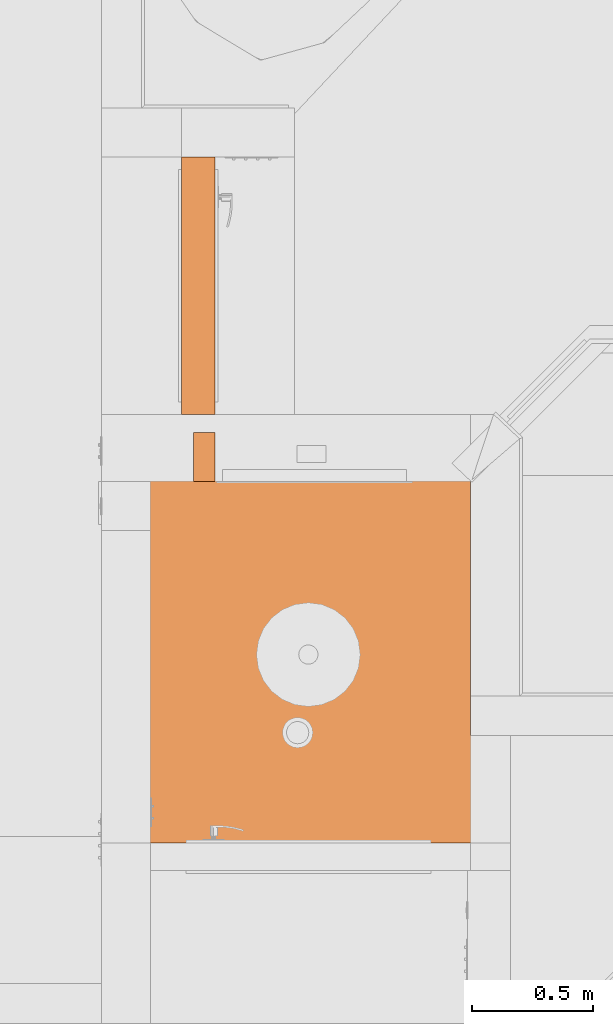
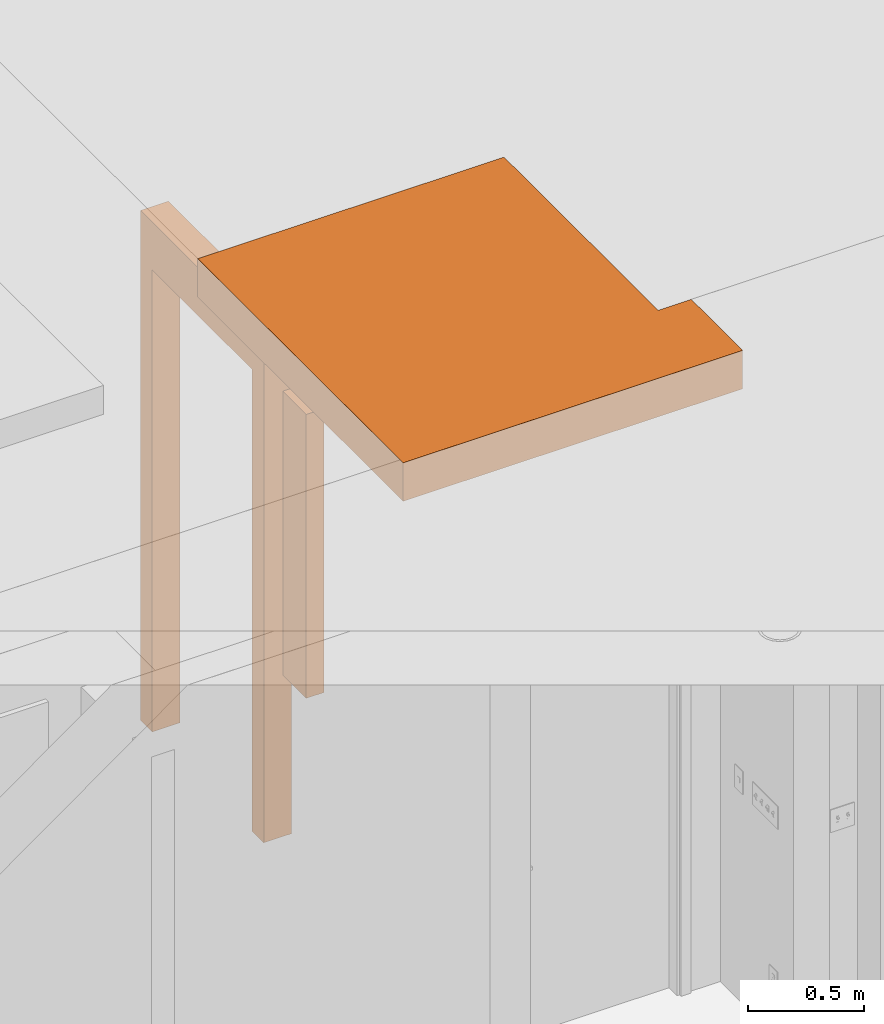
# One storey, part 87 of 103: 2 proxies.
"""IFC2X3 building model written with IfcOpenShell, lengths in inches."""

import ifcopenshell
import ifcopenshell.guid

model = None  # the IFC model being written
_history = None  # IfcOwnerHistory: only IFC2X3 demands one
_inside = {}  # id of a spatial element -> (the spatial element, [elements in it])
_under = {}  # id of a project, library or spatial element -> (it, [spatial elements below it])
_declared = {}  # id of a project -> (the project, [libraries it declares])
_typed = {}  # id of a type object -> (the type object, [elements of that type])
_made_of = {}  # id of a material, layer set ... -> (it, [elements and type objects made of it])


def new_model(schema):
    """Start an empty IFC model of exactly this schema.

    Asked for "IFC4X3", IfcOpenShell would pick the latest addendum, in which some entities
    have other attributes; the version numbers below select the first issue.
    IFC2X3 requires an IfcOwnerHistory on every rooted entity: one is made here for all.
    """
    global model, _history
    if schema == "IFC4X3":
        model = ifcopenshell.file(schema_version=(4, 3, 0, 0))
    else:
        model = ifcopenshell.file(schema=schema)
    _inside.clear()
    _under.clear()
    _declared.clear()
    _typed.clear()
    _made_of.clear()
    _history = None
    if model.schema == "IFC2X3":
        org = make("IfcOrganization", Name="unknown")
        user = make(
            "IfcPersonAndOrganization",
            ThePerson=make("IfcPerson", FamilyName="unknown"),
            TheOrganization=org,
        )
        app = make(
            "IfcApplication",
            ApplicationDeveloper=org,
            Version="unknown",
            ApplicationFullName="unknown",
            ApplicationIdentifier="unknown",
        )
        _history = make(
            "IfcOwnerHistory",
            OwningUser=user,
            OwningApplication=app,
            ChangeAction="ADDED",
            CreationDate=0,
        )
    return model


def make(cls, **values):
    """One entity of the class cls with the attributes given. An attribute that is None is left unset."""
    return model.create_entity(
        cls, **{name: value for name, value in values.items() if value is not None}
    )


def entity(cls, *values):
    """Any entity or typed value of the class cls, its attributes in the order of the schema. None: left unset."""
    e = model.create_entity(cls)
    for i, value in enumerate(values):
        if value is not None:
            e[i] = value
    return e


def rooted(cls, **values):
    """An entity with a GlobalId (a new one), such as an element, a storey or a relation."""
    return make(cls, GlobalId=ifcopenshell.guid.new(), OwnerHistory=_history, **values)


def si_unit(unit_type, name, prefix=None):
    """IfcSIUnit, for example si_unit("LENGTHUNIT", "METRE", prefix="MILLI")."""
    return make("IfcSIUnit", UnitType=unit_type, Prefix=prefix, Name=name)


def converted_unit(unit_type, name, factor, base, dimensions=None, offset=None):
    """IfcConversionBasedUnit, such as the inch: factor (a typed value) times the base unit."""
    return make(
        "IfcConversionBasedUnit"
        if offset is None
        else "IfcConversionBasedUnitWithOffset",
        ConversionOffset=offset,
        Dimensions=None
        if dimensions is None
        else entity("IfcDimensionalExponents", *dimensions),
        UnitType=unit_type,
        Name=name,
        ConversionFactor=make(
            "IfcMeasureWithUnit", ValueComponent=factor, UnitComponent=base
        ),
    )


def derived_unit(unit_type, elements):
    """IfcDerivedUnit: a product of units, each with its exponent."""
    return make(
        "IfcDerivedUnit",
        Elements=[
            make("IfcDerivedUnitElement", Unit=unit, Exponent=power)
            for unit, power in elements
        ],
        UnitType=unit_type,
    )


def money_unit(currency):
    """IfcMonetaryUnit."""
    return make("IfcMonetaryUnit", Currency=currency)


def assignment(units):
    """IfcUnitAssignment: the units of a project."""
    return None if units is None else make("IfcUnitAssignment", Units=units)


def point(xyz):
    """IfcCartesianPoint."""
    return None if xyz is None else make("IfcCartesianPoint", Coordinates=xyz)


def direction(xyz):
    """IfcDirection."""
    return None if xyz is None else make("IfcDirection", DirectionRatios=xyz)


def frame(location, z_axis=None, x_axis=None):
    """IfcAxis2Placement3D, a coordinate frame: its origin and axes. An axis left out is left unset."""
    return make(
        "IfcAxis2Placement3D",
        Location=point(location),
        Axis=direction(z_axis),
        RefDirection=direction(x_axis),
    )


def origin_with_axes():
    """The frame at (0, 0, 0) with the z axis (0, 0, 1) and the x axis (1, 0, 0) written out."""
    return frame((0.0, 0.0, 0.0), z_axis=(0.0, 0.0, 1.0), x_axis=(1.0, 0.0, 0.0))


def place(relative_to, where):
    """IfcLocalPlacement: puts the frame where relative to a parent placement (None: the world)."""
    return make(
        "IfcLocalPlacement", PlacementRelTo=relative_to, RelativePlacement=where
    )


def context(
    kind, dimensions, precision=None, world=None, true_north=None, identifier=None
):
    """IfcGeometricRepresentationContext, for example the 3D "Model" context."""
    return make(
        "IfcGeometricRepresentationContext",
        ContextIdentifier=identifier,
        ContextType=kind,
        CoordinateSpaceDimension=dimensions,
        Precision=precision,
        WorldCoordinateSystem=world,
        TrueNorth=true_north,
    )


def subcontext(parent, identifier, kind, view, scale=None):
    """IfcGeometricRepresentationSubContext, for example "Body" below "Model"."""
    return make(
        "IfcGeometricRepresentationSubContext",
        ContextIdentifier=identifier,
        ContextType=kind,
        ParentContext=parent,
        TargetScale=scale,
        TargetView=view,
    )


def project(units=None, contexts=None):
    """IfcProject with its units and contexts."""
    return rooted(
        "IfcProject",
        Name="project",
        RepresentationContexts=contexts,
        UnitsInContext=assignment(units),
    )


def spatial(cls, under=None, at=None, **own):
    """A site, building, storey or space (cls), placed at a placement, below another one or the project."""
    s = rooted(cls, ObjectPlacement=at, **own)
    if under is not None:
        _under.setdefault(under.id(), (under, []))[1].append(s)
    return s


def faces_of(points, faces, orient=None, outer=None):
    """IfcFace entities. A face is a list of loops; a loop is a list of indices into points, from 0.

    orient and outer hold one flag for each loop. By default every Orientation is true, the
    first loop of a face is its IfcFaceOuterBound and the others are IfcFaceBound.
    """
    made = []
    for i, loops in enumerate(faces):
        bounds = []
        for j, loop in enumerate(loops):
            is_outer = j == 0 if outer is None else outer[i][j]
            bounds.append(
                make(
                    "IfcFaceOuterBound" if is_outer else "IfcFaceBound",
                    Bound=make("IfcPolyLoop", Polygon=[points[k] for k in loop]),
                    Orientation=True if orient is None else orient[i][j],
                )
            )
        made.append(make("IfcFace", Bounds=bounds))
    return made


def faceted_brep(points, faces, orient=None, outer=None, voids=None):
    """IfcFacetedBrep: a solid bounded by flat faces; with voids (closed shells), ...WithVoids."""
    shared = [point(p) for p in points]
    hull = make("IfcClosedShell", CfsFaces=faces_of(shared, faces, orient, outer))
    if voids is None:
        return make("IfcFacetedBrep", Outer=hull)
    return make(
        "IfcFacetedBrepWithVoids",
        Outer=hull,
        Voids=[
            make(cls, CfsFaces=faces_of(shared, fs, o, b)) for cls, fs, o, b in voids
        ],
    )


def shape(context_of_items, identifier, shape_type, items):
    """IfcShapeRepresentation: the items that make up one representation, for example the "Body"."""
    return make(
        "IfcShapeRepresentation",
        ContextOfItems=context_of_items,
        RepresentationIdentifier=identifier,
        RepresentationType=shape_type,
        Items=items,
    )


def material(Name=None, Category=None):
    """IfcMaterial."""
    return make("IfcMaterial", Name=Name, Category=Category)


def made_of(thing, what):
    """Note that an element or type object is made of a material, layer set ...; save() writes the relation."""
    if what is not None:
        _made_of.setdefault(what.id(), (what, []))[1].append(thing)
    return thing


def type_object(cls, material=None, **own):
    """A type object (cls), such as IfcWallType, which elements share."""
    return made_of(rooted(cls, **own), material)


def element(
    cls,
    number,
    at=None,
    inside=None,
    cuts=None,
    type_object=None,
    material=None,
    context=None,
    identifier="Body",
    shape_type=None,
    held_by="IfcProductDefinitionShape",
    body=None,
    shapes=None,
    **own,
):
    """One element of the class cls, such as IfcWall. Its Tag is "e" and its number.

    at: its placement. inside: the storey or other place that contains it. cuts: it is an
    opening in that element (IfcRelVoidsElement). A single representation is given by context,
    identifier, shape_type and body (its items); several are given by shapes. held_by: the class
    of the entity that holds the representations. save() writes the other relations.
    """
    e = rooted(cls, Tag="e%d" % number, ObjectPlacement=at, **own)
    if body is not None:
        shapes = [shape(context, identifier, shape_type, body)]
    if shapes is not None:
        e.Representation = make(held_by, Representations=shapes)
    if inside is not None:
        _inside.setdefault(inside.id(), (inside, []))[1].append(e)
    if cuts is not None:
        rooted(
            "IfcRelVoidsElement", RelatingBuildingElement=cuts, RelatedOpeningElement=e
        )
    if type_object is not None:
        _typed.setdefault(type_object.id(), (type_object, []))[1].append(e)
    return made_of(e, material)


def aggregate(whole, parts):
    """IfcRelAggregates: a whole, such as a stair, and the parts it consists of."""
    return rooted("IfcRelAggregates", RelatingObject=whole, RelatedObjects=parts)


def save(model, path):
    """Write the relations noted so far, then the file.

    IfcRelAggregates (storeys below a building ...), IfcRelContainedInSpatialStructure (elements
    in a storey), IfcRelDefinesByType, IfcRelAssociatesMaterial and IfcRelDeclares: one each for
    every whole, place, type object, material and project.
    """
    for whole, parts in _under.values():
        aggregate(whole, parts)
    for where, things in _inside.values():
        rooted(
            "IfcRelContainedInSpatialStructure",
            RelatedElements=things,
            RelatingStructure=where,
        )
    for kind, things in _typed.values():
        rooted("IfcRelDefinesByType", RelatedObjects=things, RelatingType=kind)
    for what, things in _made_of.values():
        rooted("IfcRelAssociatesMaterial", RelatedObjects=things, RelatingMaterial=what)
    for by, libraries in _declared.values():
        rooted("IfcRelDeclares", RelatingContext=by, RelatedDefinitions=libraries)
    model.write(path)


model = new_model("IFC2X3")

# Units and contexts
model_context = context("Model", 3, precision=0.00039370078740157, world=origin_with_axes(), true_north=direction((0.0, 1.0)))
plan_context = context("Plan", 3, precision=0.00039370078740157, world=origin_with_axes(), true_north=direction((0.0, 1.0)))
body_context = subcontext(model_context, "Body", "Model", "MODEL_VIEW")
ifc_project = project(units=[converted_unit("LENGTHUNIT", "INCH", entity("IfcPositiveLengthMeasure", 0.0254), si_unit("LENGTHUNIT", "METRE"), dimensions=[1, 0, 0, 0, 0, 0, 0]), converted_unit("AREAUNIT", "SQUARE_FOOT", entity("IfcPositiveLengthMeasure", 0.09290304), si_unit("AREAUNIT", "SQUARE_METRE"), dimensions=[2, 0, 0, 0, 0, 0, 0]), si_unit("PLANEANGLEUNIT", "RADIAN"), si_unit("SOLIDANGLEUNIT", "STERADIAN"), money_unit("USD"), converted_unit("TIMEUNIT", "Year", entity("IfcTimeMeasure", 31557600.0), si_unit("TIMEUNIT", "SECOND"), dimensions=[0, 0, 1, 0, 0, 0, 0]), si_unit("MASSUNIT", "GRAM", prefix="KILO"), si_unit("THERMODYNAMICTEMPERATUREUNIT", "DEGREE_CELSIUS"), si_unit("LUMINOUSINTENSITYUNIT", "LUMEN"), si_unit("ENERGYUNIT", "JOULE", prefix="MEGA"), derived_unit("SPECIFICHEATCAPACITYUNIT", [(si_unit("ENERGYUNIT", "JOULE"), 1), (si_unit("MASSUNIT", "GRAM", prefix="KILO"), -1), (si_unit("THERMODYNAMICTEMPERATUREUNIT", "KELVIN"), -1)])], contexts=[model_context, plan_context])

# Site, building, storey
site_placement = place(None, origin_with_axes())
site = spatial("IfcSite", under=ifc_project, at=site_placement, Name="Site", CompositionType="ELEMENT")
building_placement = place(site_placement, origin_with_axes())
building = spatial("IfcBuilding", under=site, at=building_placement, Name="Building", CompositionType="ELEMENT")
storey_placement = place(building_placement, frame((0.0, 0.0, 127.9999999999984), z_axis=(0.0, 0.0, 1.0), x_axis=(1.0, 0.0, 0.0)))
storey = spatial("IfcBuildingStorey", under=building, at=storey_placement, Name="Second Floor", CompositionType="ELEMENT", Elevation=128.0)

# Proxies
ifc_material = material(Name="Generic - Structural")
building_element_proxy_type_1 = type_object("IfcBuildingElementProxyType", Name="Generic - Structural 5 1/2\"", PredefinedType="NOTDEFINED")
proxy_1_placement = place(storey_placement, frame((-62.74999999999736, 489.9999999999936, 0.0), z_axis=(0.0, 0.0, 1.0), x_axis=(0.0, -1.0, 0.0)))
element("IfcBuildingElementProxy", 1, at=proxy_1_placement, inside=storey, type_object=building_element_proxy_type_1, material=ifc_material, Name="SW - 126", context=body_context, shape_type="Brep", body=[
    faceted_brep([(53.00000000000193, 5.499999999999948, 94.9999999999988), (53.00000000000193, 5.499999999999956, 35.99999999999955), (45.00000001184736, 5.499999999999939, 35.99999999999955), (45.00000001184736, 5.499999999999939, 94.9999999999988), (53.00000000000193, 2.000001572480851, 94.9999999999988), (53.00000000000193, 2.000001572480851, 35.99999999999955), (45.00000000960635, 2.000001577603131, 35.99999999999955), (45.00000000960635, 2.000001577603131, 94.9999999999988)], [[[0, 1, 2, 3]], [[4, 5, 1, 0]], [[6, 2, 1, 5]], [[7, 3, 2, 6]], [[4, 0, 3, 7]], [[6, 5, 4, 7]]]),
    faceted_brep([(37.99999999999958, 5.49999999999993, 0.0), (37.99999999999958, 5.499999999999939, 95.9999999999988), (4.00000000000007, 5.499999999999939, 95.9999999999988), (4.00000000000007, 5.49999999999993, 0.0), (0.0, 5.49999999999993, 0.0), (0.0, 5.499999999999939, 105.9999999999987), (42.00000000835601, 5.499999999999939, 105.9999999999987), (42.00000000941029, 5.49999999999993, 0.0), (37.99999999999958, 0.0, 0.0), (37.99999999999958, 0.0, 95.9999999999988), (4.00000000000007, 0.0, 95.9999999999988), (4.00000000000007, 0.0, 0.0), (0.0, 0.0, 0.0), (0.0, 0.0, 105.9999999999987), (42.00000000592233, 0.0, 105.9999999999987), (42.00000000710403, 0.0, 0.0)], [[[0, 1, 2, 3, 4, 5, 6, 7]], [[1, 0, 8, 9]], [[2, 1, 9, 10]], [[3, 2, 10, 11]], [[3, 11, 12, 4]], [[13, 5, 4, 12]], [[14, 6, 5, 13]], [[7, 6, 14, 15]], [[8, 0, 7, 15]], [[9, 8, 15, 14, 13, 12, 11, 10]]]),
])
building_element_proxy_type_2 = type_object("IfcBuildingElementProxyType", Name="Generic - Structural 8\"", PredefinedType="NOTDEFINED")
proxy_2_placement = place(storey_placement, frame((-75.7499984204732, 377.9999999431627, 117.9999999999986), z_axis=(0.0, 0.0, 1.0), x_axis=(1.0, 0.0, 0.0)))
element("IfcBuildingElementProxy", 2, at=proxy_2_placement, inside=storey, type_object=building_element_proxy_type_2, material=ifc_material, Name="SLA - 012", context=body_context, shape_type="Brep", body=[
    faceted_brep([(0.0, 0.0, 7.99999999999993), (0.0, 0.0, 0.0), (66.74999662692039, 0.0, 0.0), (66.74999662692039, 0.0, 7.99999999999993), (0.0, 70.00000005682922, 7.99999999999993), (0.0, 70.00000005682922, 0.0), (60.25000019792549, 70.00000005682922, 0.0), (60.25000019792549, 17.50090645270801, 0.0), (66.74999662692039, 17.50090645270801, 0.0), (66.74999662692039, 17.50090645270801, 7.99999999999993), (60.25000019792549, 17.50090645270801, 7.99999999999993), (60.25000019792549, 70.00000005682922, 7.99999999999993)], [[[0, 1, 2, 3]], [[4, 5, 1, 0]], [[2, 1, 5, 6, 7, 8]], [[3, 2, 8, 9]], [[4, 0, 3, 9, 10, 11]], [[11, 6, 5, 4]], [[10, 7, 6, 11]], [[9, 8, 7, 10]]]),
])

save(model, "model.ifc")
